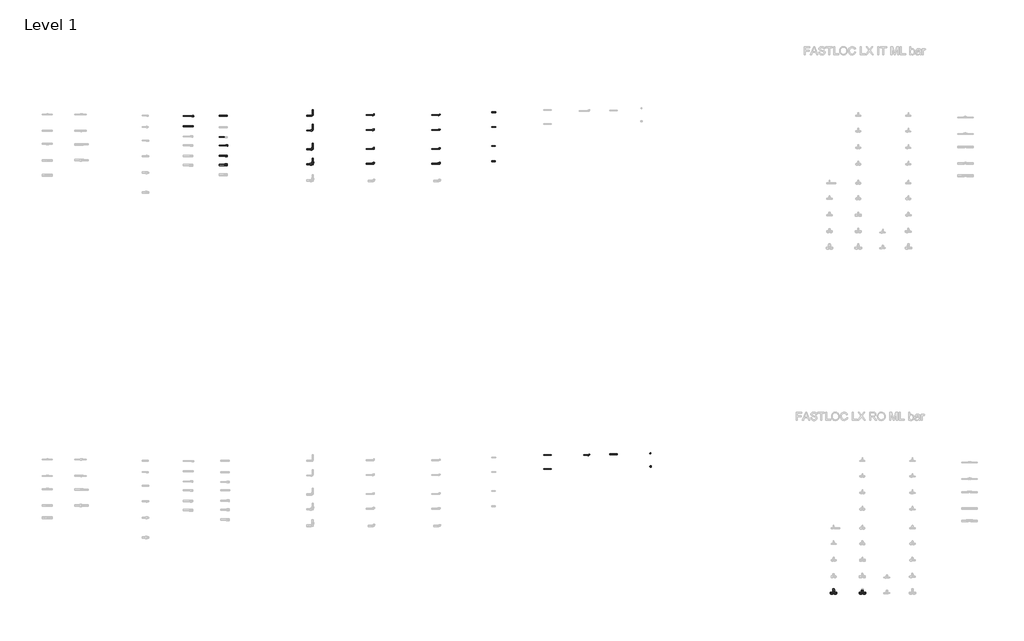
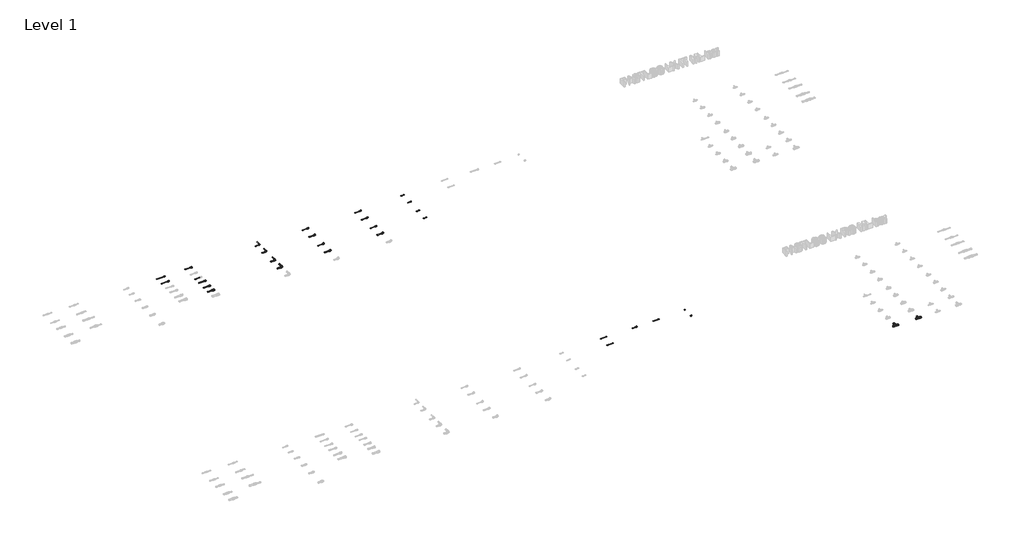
# One storey, part 15 of 78: 37 pipe segments, 23 pipe fittings.
"""IFC4 building model written with IfcOpenShell, lengths in millimetres."""

from ifc_helpers import new_model, si_unit, point, frame, frame_2d, origin, place, context, project, spatial, circle_curve, trimmed, segment, composite_curve, outline, extrude, transform, mapped, element, save
from components import pipe_fitting_bf755f27, pipe_fitting_836a2278, pipe_fitting_ec6341fa, pipe_fitting_b55198ad, pipe_fitting_8d4eabeb, pipe_fitting_91101529, pipe_fitting_310333dd, pipe_fitting_c8bca06d, pipe_fitting_5bbd4ca1, pipe_fitting_ce7225c3, pipe_fitting_e4b23f8c, pipe_fitting_5776f994, pipe_fitting_edf19c19, pipe_fitting_b873231b, pipe_fitting_ea484583, pipe_fitting_564e9d2e, pipe_fitting_7e3be5b8, pipe_fitting_24e9e25e, pipe_fitting_f7ee4d9f

model = new_model("IFC4")

# Units and contexts
model_context = context("Model", 3, world=origin())
ifc_project = project(units=[si_unit("LENGTHUNIT", "METRE", prefix="MILLI")], contexts=[model_context])

# Site, building, storey
site = spatial("IfcSite", under=ifc_project)
building = spatial("IfcBuilding", under=site)
storey = spatial("IfcBuildingStorey", under=building, Name="Level 1", Elevation=0.0)

# Pipe fittings
placement = place(None, origin())
pipe_fitting_shape = pipe_fitting_bf755f27(model_context)
element("IfcPipeFitting", 1, ObjectType="FASTLOC_Adapter with union nut LX : FSL A union nut SK", at=placement, inside=storey, context=model_context, shape_type="MappedRepresentation", body=[
    mapped(pipe_fitting_shape, transform((9445.0071797, -19934.8414073, 0.0), x_axis=(1.0, 0.0, 0.0), y_axis=(0.0, 1.0, 0.0), z_axis=(0.0, 0.0, 1.0))),
])
pipe_fitting_2_shape = pipe_fitting_836a2278(model_context)
element("IfcPipeFitting", 2, ObjectType="FASTLOC_Adapter_LX, with internal thread : FSL A internal SK", at=placement, inside=storey, context=model_context, shape_type="MappedRepresentation", body=[
    mapped(pipe_fitting_2_shape, transform((8631.9138788, -18746.1148632, 0.0), x_axis=(1.0, 0.0, 0.0), y_axis=(0.0, 1.0, 0.0), z_axis=(0.0, 0.0, 1.0))),
])
pipe_fitting_3_shape = pipe_fitting_ec6341fa(model_context)
element("IfcPipeFitting", 3, ObjectType="FASTLOC_Blanking plug LX : FSL Bp LX FR", at=placement, inside=storey, context=model_context, shape_type="MappedRepresentation", body=[
    mapped(pipe_fitting_3_shape, transform((19755.4857845, -26956.0968766, 0.0), x_axis=(1.0, 0.0, 0.0), y_axis=(0.0, 1.0, 0.0), z_axis=(0.0, 0.0, 1.0))),
])
pipe_fitting_4_shape = pipe_fitting_b55198ad(model_context)
element("IfcPipeFitting", 4, ObjectType="FASTLOC_Corner LX : FSL C LX SK", at=placement, inside=storey, context=model_context, shape_type="MappedRepresentation", body=[
    mapped(pipe_fitting_4_shape, transform((11545.4707441, -18738.8136389, 0.0), x_axis=(1.0, 0.0, 0.0), y_axis=(0.0, 1.0, 0.0), z_axis=(0.0, 0.0, 1.0))),
])
pipe_fitting_5_shape = pipe_fitting_8d4eabeb(model_context)
element("IfcPipeFitting", 5, ObjectType="FASTLOC_Elbow with female thread LX : FSL A internal SK", at=placement, inside=storey, context=model_context, shape_type="MappedRepresentation", body=[
    mapped(pipe_fitting_5_shape, transform((14636.9744513, -18724.4914884, 0.0), x_axis=(1.0, 0.0, 0.0), y_axis=(0.0, 1.0, 0.0), z_axis=(0.0, 0.0, 1.0))),
])
element("IfcPipeFitting", 6, ObjectType="FASTLOC_Elbow with female thread LX : FSL A internal SK", at=placement, inside=storey, context=model_context, shape_type="MappedRepresentation", body=[
    mapped(pipe_fitting_5_shape, transform((14636.9744513, -19084.4914884, 0.0), x_axis=(1.0, 0.0, 0.0), y_axis=(0.0, 1.0, 0.0), z_axis=(0.0, 0.0, 1.0))),
])
element("IfcPipeFitting", 7, ObjectType="FASTLOC_Elbow with female thread LX : FSL A internal SK", at=placement, inside=storey, context=model_context, shape_type="MappedRepresentation", body=[
    mapped(pipe_fitting_5_shape, transform((14636.9744513, -19544.4914884, 0.0), x_axis=(1.0, 0.0, 0.0), y_axis=(0.0, 1.0, 0.0), z_axis=(0.0, 0.0, 1.0))),
])
pipe_fitting_6_shape = pipe_fitting_91101529(model_context)
element("IfcPipeFitting", 8, ObjectType="FASTLOC_Elbow with male thread G LX : FSL A internal FR", at=placement, inside=storey, context=model_context, shape_type="MappedRepresentation", body=[
    mapped(pipe_fitting_6_shape, transform((18277.9521728, -26999.4468766, 0.0), x_axis=(1.0, 0.0, 0.0), y_axis=(0.0, 1.0, 0.0), z_axis=(0.0, 0.0, 1.0))),
])
pipe_fitting_7_shape = pipe_fitting_310333dd(model_context)
element("IfcPipeFitting", 9, ObjectType="FASTLOC_Elbow with male thread LX : FSL A internal SK", at=placement, inside=storey, context=model_context, shape_type="MappedRepresentation", body=[
    mapped(pipe_fitting_7_shape, transform((13036.9744513, -18724.4914884, 0.0), x_axis=(1.0, 0.0, 0.0), y_axis=(0.0, 1.0, 0.0), z_axis=(0.0, 0.0, 1.0))),
])
element("IfcPipeFitting", 10, ObjectType="FASTLOC_Elbow with male thread LX : FSL A internal SK", at=placement, inside=storey, context=model_context, shape_type="MappedRepresentation", body=[
    mapped(pipe_fitting_7_shape, transform((13036.9744513, -19084.4914884, 0.0), x_axis=(1.0, 0.0, 0.0), y_axis=(0.0, 1.0, 0.0), z_axis=(0.0, 0.0, 1.0))),
])
element("IfcPipeFitting", 11, ObjectType="FASTLOC_Elbow with male thread LX : FSL A internal SK", at=placement, inside=storey, context=model_context, shape_type="MappedRepresentation", body=[
    mapped(pipe_fitting_7_shape, transform((13036.9744513, -19544.4914884, 0.0), x_axis=(1.0, 0.0, 0.0), y_axis=(0.0, 1.0, 0.0), z_axis=(0.0, 0.0, 1.0))),
])
pipe_fitting_8_shape = pipe_fitting_c8bca06d(model_context)
element("IfcPipeFitting", 12, ObjectType="FASTLOC_Adapter with union nut LX : FSL A union nut SK", at=placement, inside=storey, context=model_context, shape_type="MappedRepresentation", body=[
    mapped(pipe_fitting_8_shape, transform((9459.1493153, -19460.6992717, 0.0), x_axis=(1.0, 0.0, 0.0), y_axis=(0.0, 1.0, 0.0), z_axis=(0.0, 0.0, 1.0))),
])
pipe_fitting_9_shape = pipe_fitting_5bbd4ca1(model_context)
element("IfcPipeFitting", 13, ObjectType="FASTLOC_Adapter with union nut LX : FSL A union nut SK", at=placement, inside=storey, context=model_context, shape_type="MappedRepresentation", body=[
    mapped(pipe_fitting_9_shape, transform((9445.0071797, -19714.8414073, 0.0), x_axis=(1.0, 0.0, 0.0), y_axis=(0.0, 1.0, 0.0), z_axis=(0.0, 0.0, 1.0))),
])
pipe_fitting_10_shape = pipe_fitting_ce7225c3(model_context)
element("IfcPipeFitting", 14, ObjectType="FASTLOC_Adapter with union nut LX : FSL A union nut SK", at=placement, inside=storey, context=model_context, shape_type="MappedRepresentation", body=[
    mapped(pipe_fitting_10_shape, transform((9445.0071797, -18739.8414073, 0.0), x_axis=(1.0, 0.0, 0.0), y_axis=(0.0, 1.0, 0.0), z_axis=(0.0, 0.0, 1.0))),
])
pipe_fitting_11_shape = pipe_fitting_e4b23f8c(model_context)
element("IfcPipeFitting", 15, ObjectType="FASTLOC_Corner LX : FSL C LX SK", at=placement, inside=storey, context=model_context, shape_type="MappedRepresentation", body=[
    mapped(pipe_fitting_11_shape, transform((11545.4707441, -19098.8136389, 0.0), x_axis=(1.0, 0.0, 0.0), y_axis=(0.0, 1.0, 0.0), z_axis=(0.0, 0.0, 1.0))),
])
pipe_fitting_12_shape = pipe_fitting_5776f994(model_context)
element("IfcPipeFitting", 16, ObjectType="FASTLOC_Corner LX : FSL C LX SK", at=placement, inside=storey, context=model_context, shape_type="MappedRepresentation", body=[
    mapped(pipe_fitting_12_shape, transform((11545.4707441, -19558.8136389, 0.0), x_axis=(1.0, 0.0, 0.0), y_axis=(0.0, 1.0, 0.0), z_axis=(0.0, 0.0, 1.0))),
])
pipe_fitting_13_shape = pipe_fitting_edf19c19(model_context)
element("IfcPipeFitting", 17, ObjectType="FASTLOC_Corner LX : FSL C LX SK", at=placement, inside=storey, context=model_context, shape_type="MappedRepresentation", body=[
    mapped(pipe_fitting_13_shape, transform((11545.4707441, -19918.8136389, 0.0), x_axis=(1.0, 0.0, 0.0), y_axis=(0.0, 1.0, 0.0), z_axis=(0.0, 0.0, 1.0))),
])
pipe_fitting_14_shape = pipe_fitting_b873231b(model_context)
element("IfcPipeFitting", 18, ObjectType="FASTLOC_Elbow with male thread LX : FSL A internal SK", at=placement, inside=storey, context=model_context, shape_type="MappedRepresentation", body=[
    mapped(pipe_fitting_14_shape, transform((13036.9744513, -19904.4914884, 0.0), x_axis=(1.0, 0.0, 0.0), y_axis=(0.0, 1.0, 0.0), z_axis=(0.0, 0.0, 1.0))),
])
pipe_fitting_15_shape = pipe_fitting_ea484583(model_context)
element("IfcPipeFitting", 19, ObjectType="FASTLOC_Elbow with female thread LX : FSL A internal SK", at=placement, inside=storey, context=model_context, shape_type="MappedRepresentation", body=[
    mapped(pipe_fitting_15_shape, transform((14636.9744513, -19904.4914884, 0.0), x_axis=(1.0, 0.0, 0.0), y_axis=(0.0, 1.0, 0.0), z_axis=(0.0, 0.0, 1.0))),
])
pipe_fitting_16_shape = pipe_fitting_564e9d2e(model_context)
element("IfcPipeFitting", 20, ObjectType="FASTLOC_T-piece_LX : FSL T-Piece LX RO", at=placement, inside=storey, context=model_context, shape_type="MappedRepresentation", body=[
    mapped(pipe_fitting_16_shape, transform((24226.7498072, -30360.2405791, 0.0), x_axis=(1.0, 0.0, 0.0), y_axis=(0.0, 1.0, 0.0), z_axis=(0.0, 0.0, 1.0))),
])
pipe_fitting_17_shape = pipe_fitting_7e3be5b8(model_context)
element("IfcPipeFitting", 21, ObjectType="FASTLOC_T-piece_LX : FSL T-Piece LX RO", at=placement, inside=storey, context=model_context, shape_type="MappedRepresentation", body=[
    mapped(pipe_fitting_17_shape, transform((24926.7498072, -30360.2405791, 0.0), x_axis=(1.0, 0.0, 0.0), y_axis=(0.0, 1.0, 0.0), z_axis=(0.0, 0.0, 1.0))),
])
pipe_fitting_18_shape = pipe_fitting_24e9e25e(model_context)
element("IfcPipeFitting", 22, ObjectType="FASTLOC_Blanking plug LX : FSL Bp LX FR", at=placement, inside=storey, context=model_context, shape_type="MappedRepresentation", body=[
    mapped(pipe_fitting_18_shape, transform((19755.4857845, -27276.0968766, 0.0), x_axis=(1.0, 0.0, 0.0), y_axis=(0.0, 1.0, 0.0), z_axis=(0.0, 0.0, 1.0))),
])
pipe_fitting_19_shape = pipe_fitting_f7ee4d9f(model_context)
element("IfcPipeFitting", 23, ObjectType="FASTLOC_Adapter_LX, with internal thread : FSL A internal SK", at=placement, inside=storey, context=model_context, shape_type="MappedRepresentation", body=[
    mapped(pipe_fitting_19_shape, transform((8619.5138788, -18992.5715861, 0.0), x_axis=(1.0, 0.0, 0.0), y_axis=(0.0, 1.0, 0.0), z_axis=(0.0, 0.0, 1.0))),
])

# Pipe segments
element("IfcPipeSegment", 24, ObjectType="FASTLOC LX ML SK bar", at=placement, inside=storey, context=model_context, shape_type="SweptSolid", body=[
    extrude(outline(composite_curve([segment(trimmed(circle_curve(frame_2d((-18746.1148632, 0.0)), 8.0), [point((-18738.1148632, 0.0))], [point((-18746.1148632, -8.0))], False, "CARTESIAN"), True, "CONTINUOUS"), segment(trimmed(circle_curve(frame_2d((-18746.1148632, 0.0)), 8.0), [point((-18746.1148632, -8.0))], [point((-18754.1148632, 0.0))], False, "CARTESIAN"), True, "CONTINUOUS"), segment(trimmed(circle_curve(frame_2d((-18746.1148632, 0.0)), 8.0), [point((-18754.1148632, 0.0))], [point((-18746.1148632, 8.0))], False, "CARTESIAN"), True, "CONTINUOUS"), segment(trimmed(circle_curve(frame_2d((-18746.1148632, 0.0)), 8.0), [point((-18746.1148632, 8.0))], [point((-18738.1148632, 0.0))], False, "CARTESIAN"), True, "CONTINUOUS")], self_intersect=False)), frame((8390.3717432, 0.0, 0.0), z_axis=(1.0, 0.0, 0.0), x_axis=(0.0, 1.0, 0.0)), (0.0, 0.0, 1.0), 229.1421356),
])
element("IfcPipeSegment", 25, ObjectType="FASTLOC LX ML SK bar", at=placement, inside=storey, context=model_context, shape_type="SweptSolid", body=[
    extrude(outline(composite_curve([segment(trimmed(circle_curve(frame_2d((-18738.8136389, 0.0)), 8.0), [point((-18730.8136389, 0.0))], [point((-18738.8136389, -8.0))], False, "CARTESIAN"), True, "CONTINUOUS"), segment(trimmed(circle_curve(frame_2d((-18738.8136389, 0.0)), 8.0), [point((-18738.8136389, -8.0))], [point((-18746.8136389, 0.0))], False, "CARTESIAN"), True, "CONTINUOUS"), segment(trimmed(circle_curve(frame_2d((-18738.8136389, 0.0)), 8.0), [point((-18746.8136389, 0.0))], [point((-18738.8136389, 8.0))], False, "CARTESIAN"), True, "CONTINUOUS"), segment(trimmed(circle_curve(frame_2d((-18738.8136389, 0.0)), 8.0), [point((-18738.8136389, 8.0))], [point((-18730.8136389, 0.0))], False, "CARTESIAN"), True, "CONTINUOUS")], self_intersect=False)), frame((11403.3707441, 0.0, 0.0), z_axis=(1.0, 0.0, 0.0), x_axis=(0.0, 1.0, 0.0)), (0.0, 0.0, 1.0), 120.0),
])
element("IfcPipeSegment", 26, ObjectType="FASTLOC LX ML SK bar", at=placement, inside=storey, context=model_context, shape_type="SweptSolid", body=[
    extrude(outline(composite_curve([segment(trimmed(circle_curve(frame_2d((0.0, 11545.4707441)), 8.0), [point((0.0, 11553.4707441))], [point((8.0, 11545.4707441))], False, "CARTESIAN"), True, "CONTINUOUS"), segment(trimmed(circle_curve(frame_2d((0.0, 11545.4707441)), 8.0), [point((8.0, 11545.4707441))], [point((0.0, 11537.4707441))], False, "CARTESIAN"), True, "CONTINUOUS"), segment(trimmed(circle_curve(frame_2d((0.0, 11545.4707441)), 8.0), [point((0.0, 11537.4707441))], [point((-8.0, 11545.4707441))], False, "CARTESIAN"), True, "CONTINUOUS"), segment(trimmed(circle_curve(frame_2d((0.0, 11545.4707441)), 8.0), [point((-8.0, 11545.4707441))], [point((0.0, 11553.4707441))], False, "CARTESIAN"), True, "CONTINUOUS")], self_intersect=False)), frame((0.0, -18716.7136389, 0.0), z_axis=(0.0, 1.0, 0.0), x_axis=(0.0, 0.0, 1.0)), (0.0, 0.0, 1.0), 125.0),
])
element("IfcPipeSegment", 27, ObjectType="FASTLOC LX ML SK bar", at=placement, inside=storey, context=model_context, shape_type="SweptSolid", body=[
    extrude(outline(composite_curve([segment(trimmed(circle_curve(frame_2d((-19098.8136389, 0.0)), 8.0), [point((-19090.8136389, 0.0))], [point((-19098.8136389, -8.0))], False, "CARTESIAN"), True, "CONTINUOUS"), segment(trimmed(circle_curve(frame_2d((-19098.8136389, 0.0)), 8.0), [point((-19098.8136389, -8.0))], [point((-19106.8136389, 0.0))], False, "CARTESIAN"), True, "CONTINUOUS"), segment(trimmed(circle_curve(frame_2d((-19098.8136389, 0.0)), 8.0), [point((-19106.8136389, 0.0))], [point((-19098.8136389, 8.0))], False, "CARTESIAN"), True, "CONTINUOUS"), segment(trimmed(circle_curve(frame_2d((-19098.8136389, 0.0)), 8.0), [point((-19098.8136389, 8.0))], [point((-19090.8136389, 0.0))], False, "CARTESIAN"), True, "CONTINUOUS")], self_intersect=False)), frame((11403.3707441, 0.0, 0.0), z_axis=(1.0, 0.0, 0.0), x_axis=(0.0, 1.0, 0.0)), (0.0, 0.0, 1.0), 117.5),
])
element("IfcPipeSegment", 28, ObjectType="FASTLOC LX ML SK bar", at=placement, inside=storey, context=model_context, shape_type="SweptSolid", body=[
    extrude(outline(composite_curve([segment(trimmed(circle_curve(frame_2d((0.0, 11545.4707441)), 8.0), [point((0.0, 11553.4707441))], [point((8.0, 11545.4707441))], False, "CARTESIAN"), True, "CONTINUOUS"), segment(trimmed(circle_curve(frame_2d((0.0, 11545.4707441)), 8.0), [point((8.0, 11545.4707441))], [point((0.0, 11537.4707441))], False, "CARTESIAN"), True, "CONTINUOUS"), segment(trimmed(circle_curve(frame_2d((0.0, 11545.4707441)), 8.0), [point((0.0, 11537.4707441))], [point((-8.0, 11545.4707441))], False, "CARTESIAN"), True, "CONTINUOUS"), segment(trimmed(circle_curve(frame_2d((0.0, 11545.4707441)), 8.0), [point((-8.0, 11545.4707441))], [point((0.0, 11553.4707441))], False, "CARTESIAN"), True, "CONTINUOUS")], self_intersect=False)), frame((0.0, -19074.2136389, 0.0), z_axis=(0.0, 1.0, 0.0), x_axis=(0.0, 0.0, 1.0)), (0.0, 0.0, 1.0), 122.5),
])
element("IfcPipeSegment", 29, ObjectType="FASTLOC LX ML SK bar", at=placement, inside=storey, context=model_context, shape_type="SweptSolid", body=[
    extrude(outline(composite_curve([segment(trimmed(circle_curve(frame_2d((-19558.8136389, 0.0)), 12.5), [point((-19546.3136389, 0.0))], [point((-19558.8136389, -12.5))], False, "CARTESIAN"), True, "CONTINUOUS"), segment(trimmed(circle_curve(frame_2d((-19558.8136389, 0.0)), 12.5), [point((-19558.8136389, -12.5))], [point((-19571.3136389, 0.0))], False, "CARTESIAN"), True, "CONTINUOUS"), segment(trimmed(circle_curve(frame_2d((-19558.8136389, 0.0)), 12.5), [point((-19571.3136389, 0.0))], [point((-19558.8136389, 12.5))], False, "CARTESIAN"), True, "CONTINUOUS"), segment(trimmed(circle_curve(frame_2d((-19558.8136389, 0.0)), 12.5), [point((-19558.8136389, 12.5))], [point((-19546.3136389, 0.0))], False, "CARTESIAN"), True, "CONTINUOUS")], self_intersect=False)), frame((11403.3707441, 0.0, 0.0), z_axis=(1.0, 0.0, 0.0), x_axis=(0.0, 1.0, 0.0)), (0.0, 0.0, 1.0), 113.1),
])
element("IfcPipeSegment", 30, ObjectType="FASTLOC LX ML SK bar", at=placement, inside=storey, context=model_context, shape_type="SweptSolid", body=[
    extrude(outline(composite_curve([segment(trimmed(circle_curve(frame_2d((0.0, 11545.4707441)), 12.5), [point((0.0, 11557.9707441))], [point((12.5, 11545.4707441))], False, "CARTESIAN"), True, "CONTINUOUS"), segment(trimmed(circle_curve(frame_2d((0.0, 11545.4707441)), 12.5), [point((12.5, 11545.4707441))], [point((0.0, 11532.9707441))], False, "CARTESIAN"), True, "CONTINUOUS"), segment(trimmed(circle_curve(frame_2d((0.0, 11545.4707441)), 12.5), [point((0.0, 11532.9707441))], [point((-12.5, 11545.4707441))], False, "CARTESIAN"), True, "CONTINUOUS"), segment(trimmed(circle_curve(frame_2d((0.0, 11545.4707441)), 12.5), [point((-12.5, 11545.4707441))], [point((0.0, 11557.9707441))], False, "CARTESIAN"), True, "CONTINUOUS")], self_intersect=False)), frame((0.0, -19529.8136389, 0.0), z_axis=(0.0, 1.0, 0.0), x_axis=(0.0, 0.0, 1.0)), (0.0, 0.0, 1.0), 118.1),
])
element("IfcPipeSegment", 31, ObjectType="FASTLOC LX ML SK bar", at=placement, inside=storey, context=model_context, shape_type="SweptSolid", body=[
    extrude(outline(composite_curve([segment(trimmed(circle_curve(frame_2d((-19918.8136389, 0.0)), 16.0), [point((-19902.8136389, 0.0))], [point((-19918.8136389, -16.0))], False, "CARTESIAN"), True, "CONTINUOUS"), segment(trimmed(circle_curve(frame_2d((-19918.8136389, 0.0)), 16.0), [point((-19918.8136389, -16.0))], [point((-19934.8136389, 0.0))], False, "CARTESIAN"), True, "CONTINUOUS"), segment(trimmed(circle_curve(frame_2d((-19918.8136389, 0.0)), 16.0), [point((-19934.8136389, 0.0))], [point((-19918.8136389, 16.0))], False, "CARTESIAN"), True, "CONTINUOUS"), segment(trimmed(circle_curve(frame_2d((-19918.8136389, 0.0)), 16.0), [point((-19918.8136389, 16.0))], [point((-19902.8136389, 0.0))], False, "CARTESIAN"), True, "CONTINUOUS")], self_intersect=False)), frame((11403.3707441, 0.0, 0.0), z_axis=(1.0, 0.0, 0.0), x_axis=(0.0, 1.0, 0.0)), (0.0, 0.0, 1.0), 107.1),
])
element("IfcPipeSegment", 32, ObjectType="FASTLOC LX ML SK bar", at=placement, inside=storey, context=model_context, shape_type="SweptSolid", body=[
    extrude(outline(composite_curve([segment(trimmed(circle_curve(frame_2d((0.0, 11545.4707441)), 16.0), [point((0.0, 11561.4707441))], [point((16.0, 11545.4707441))], False, "CARTESIAN"), True, "CONTINUOUS"), segment(trimmed(circle_curve(frame_2d((0.0, 11545.4707441)), 16.0), [point((16.0, 11545.4707441))], [point((0.0, 11529.4707441))], False, "CARTESIAN"), True, "CONTINUOUS"), segment(trimmed(circle_curve(frame_2d((0.0, 11545.4707441)), 16.0), [point((0.0, 11529.4707441))], [point((-16.0, 11545.4707441))], False, "CARTESIAN"), True, "CONTINUOUS"), segment(trimmed(circle_curve(frame_2d((0.0, 11545.4707441)), 16.0), [point((-16.0, 11545.4707441))], [point((0.0, 11561.4707441))], False, "CARTESIAN"), True, "CONTINUOUS")], self_intersect=False)), frame((0.0, -19883.8136389, 0.0), z_axis=(0.0, 1.0, 0.0), x_axis=(0.0, 0.0, 1.0)), (0.0, 0.0, 1.0), 112.1),
])
element("IfcPipeSegment", 33, ObjectType="FASTLOC LX ML SK bar", at=placement, inside=storey, context=model_context, shape_type="SweptSolid", body=[
    extrude(outline(composite_curve([segment(trimmed(circle_curve(frame_2d((-18724.4914884, 0.0)), 8.0), [point((-18716.4914884, 0.0))], [point((-18724.4914884, -8.0))], False, "CARTESIAN"), True, "CONTINUOUS"), segment(trimmed(circle_curve(frame_2d((-18724.4914884, 0.0)), 8.0), [point((-18724.4914884, -8.0))], [point((-18732.4914884, 0.0))], False, "CARTESIAN"), True, "CONTINUOUS"), segment(trimmed(circle_curve(frame_2d((-18724.4914884, 0.0)), 8.0), [point((-18732.4914884, 0.0))], [point((-18724.4914884, 8.0))], False, "CARTESIAN"), True, "CONTINUOUS"), segment(trimmed(circle_curve(frame_2d((-18724.4914884, 0.0)), 8.0), [point((-18724.4914884, 8.0))], [point((-18716.4914884, 0.0))], False, "CARTESIAN"), True, "CONTINUOUS")], self_intersect=False)), frame((12846.7744513, 0.0, 0.0), z_axis=(1.0, 0.0, 0.0), x_axis=(0.0, 1.0, 0.0)), (0.0, 0.0, 1.0), 170.0),
])
element("IfcPipeSegment", 34, ObjectType="FASTLOC LX ML SK bar", at=placement, inside=storey, context=model_context, shape_type="SweptSolid", body=[
    extrude(outline(composite_curve([segment(trimmed(circle_curve(frame_2d((-19084.4914884, 0.0)), 8.0), [point((-19076.4914884, 0.0))], [point((-19084.4914884, -8.0))], False, "CARTESIAN"), True, "CONTINUOUS"), segment(trimmed(circle_curve(frame_2d((-19084.4914884, 0.0)), 8.0), [point((-19084.4914884, -8.0))], [point((-19092.4914884, 0.0))], False, "CARTESIAN"), True, "CONTINUOUS"), segment(trimmed(circle_curve(frame_2d((-19084.4914884, 0.0)), 8.0), [point((-19092.4914884, 0.0))], [point((-19084.4914884, 8.0))], False, "CARTESIAN"), True, "CONTINUOUS"), segment(trimmed(circle_curve(frame_2d((-19084.4914884, 0.0)), 8.0), [point((-19084.4914884, 8.0))], [point((-19076.4914884, 0.0))], False, "CARTESIAN"), True, "CONTINUOUS")], self_intersect=False)), frame((12846.7744513, 0.0, 0.0), z_axis=(1.0, 0.0, 0.0), x_axis=(0.0, 1.0, 0.0)), (0.0, 0.0, 1.0), 170.0),
])
element("IfcPipeSegment", 35, ObjectType="FASTLOC LX ML SK bar", at=placement, inside=storey, context=model_context, shape_type="SweptSolid", body=[
    extrude(outline(composite_curve([segment(trimmed(circle_curve(frame_2d((-19544.4914884, 0.0)), 8.0), [point((-19536.4914884, 0.0))], [point((-19544.4914884, -8.0))], False, "CARTESIAN"), True, "CONTINUOUS"), segment(trimmed(circle_curve(frame_2d((-19544.4914884, 0.0)), 8.0), [point((-19544.4914884, -8.0))], [point((-19552.4914884, 0.0))], False, "CARTESIAN"), True, "CONTINUOUS"), segment(trimmed(circle_curve(frame_2d((-19544.4914884, 0.0)), 8.0), [point((-19552.4914884, 0.0))], [point((-19544.4914884, 8.0))], False, "CARTESIAN"), True, "CONTINUOUS"), segment(trimmed(circle_curve(frame_2d((-19544.4914884, 0.0)), 8.0), [point((-19544.4914884, 8.0))], [point((-19536.4914884, 0.0))], False, "CARTESIAN"), True, "CONTINUOUS")], self_intersect=False)), frame((12846.7744513, 0.0, 0.0), z_axis=(1.0, 0.0, 0.0), x_axis=(0.0, 1.0, 0.0)), (0.0, 0.0, 1.0), 170.0),
])
element("IfcPipeSegment", 36, ObjectType="FASTLOC LX ML SK bar", at=placement, inside=storey, context=model_context, shape_type="SweptSolid", body=[
    extrude(outline(composite_curve([segment(trimmed(circle_curve(frame_2d((-18654.4604595, 0.0)), 8.0), [point((-18646.4604595, 0.0))], [point((-18654.4604595, -8.0))], False, "CARTESIAN"), True, "CONTINUOUS"), segment(trimmed(circle_curve(frame_2d((-18654.4604595, 0.0)), 8.0), [point((-18654.4604595, -8.0))], [point((-18662.4604595, 0.0))], False, "CARTESIAN"), True, "CONTINUOUS"), segment(trimmed(circle_curve(frame_2d((-18654.4604595, 0.0)), 8.0), [point((-18662.4604595, 0.0))], [point((-18654.4604595, 8.0))], False, "CARTESIAN"), True, "CONTINUOUS"), segment(trimmed(circle_curve(frame_2d((-18654.4604595, 0.0)), 8.0), [point((-18654.4604595, 8.0))], [point((-18646.4604595, 0.0))], False, "CARTESIAN"), True, "CONTINUOUS")], self_intersect=False)), frame((15898.9809397, 0.0, 0.0), z_axis=(1.0, 0.0, 0.0), x_axis=(0.0, 1.0, 0.0)), (0.0, 0.0, 1.0), 99.5),
])
element("IfcPipeSegment", 37, ObjectType="FASTLOC LX ML SK bar", at=placement, inside=storey, context=model_context, shape_type="SweptSolid", body=[
    extrude(outline(composite_curve([segment(trimmed(circle_curve(frame_2d((-19014.4604595, 0.0)), 8.0), [point((-19006.4604595, 0.0))], [point((-19014.4604595, -8.0))], False, "CARTESIAN"), True, "CONTINUOUS"), segment(trimmed(circle_curve(frame_2d((-19014.4604595, 0.0)), 8.0), [point((-19014.4604595, -8.0))], [point((-19022.4604595, 0.0))], False, "CARTESIAN"), True, "CONTINUOUS"), segment(trimmed(circle_curve(frame_2d((-19014.4604595, 0.0)), 8.0), [point((-19022.4604595, 0.0))], [point((-19014.4604595, 8.0))], False, "CARTESIAN"), True, "CONTINUOUS"), segment(trimmed(circle_curve(frame_2d((-19014.4604595, 0.0)), 8.0), [point((-19014.4604595, 8.0))], [point((-19006.4604595, 0.0))], False, "CARTESIAN"), True, "CONTINUOUS")], self_intersect=False)), frame((15898.9809397, 0.0, 0.0), z_axis=(1.0, 0.0, 0.0), x_axis=(0.0, 1.0, 0.0)), (0.0, 0.0, 1.0), 99.6),
])
element("IfcPipeSegment", 38, ObjectType="FASTLOC LX ML SK bar", at=placement, inside=storey, context=model_context, shape_type="SweptSolid", body=[
    extrude(outline(composite_curve([segment(trimmed(circle_curve(frame_2d((-18992.5715861, 0.0)), 8.0), [point((-18984.5715861, 0.0))], [point((-18992.5715861, -8.0))], False, "CARTESIAN"), True, "CONTINUOUS"), segment(trimmed(circle_curve(frame_2d((-18992.5715861, 0.0)), 8.0), [point((-18992.5715861, -8.0))], [point((-19000.5715861, 0.0))], False, "CARTESIAN"), True, "CONTINUOUS"), segment(trimmed(circle_curve(frame_2d((-18992.5715861, 0.0)), 8.0), [point((-19000.5715861, 0.0))], [point((-18992.5715861, 8.0))], False, "CARTESIAN"), True, "CONTINUOUS"), segment(trimmed(circle_curve(frame_2d((-18992.5715861, 0.0)), 8.0), [point((-18992.5715861, 8.0))], [point((-18984.5715861, 0.0))], False, "CARTESIAN"), True, "CONTINUOUS")], self_intersect=False)), frame((8390.3717432, 0.0, 0.0), z_axis=(1.0, 0.0, 0.0), x_axis=(0.0, 1.0, 0.0)), (0.0, 0.0, 1.0), 217.4421356),
])
element("IfcPipeSegment", 39, ObjectType="FASTLOC LX ML SK bar", at=placement, inside=storey, context=model_context, shape_type="SweptSolid", body=[
    extrude(outline(composite_curve([segment(trimmed(circle_curve(frame_2d((-19904.4914884, 0.0)), 12.5), [point((-19891.9914884, 0.0))], [point((-19904.4914884, -12.5))], False, "CARTESIAN"), True, "CONTINUOUS"), segment(trimmed(circle_curve(frame_2d((-19904.4914884, 0.0)), 12.5), [point((-19904.4914884, -12.5))], [point((-19916.9914884, 0.0))], False, "CARTESIAN"), True, "CONTINUOUS"), segment(trimmed(circle_curve(frame_2d((-19904.4914884, 0.0)), 12.5), [point((-19916.9914884, 0.0))], [point((-19904.4914884, 12.5))], False, "CARTESIAN"), True, "CONTINUOUS"), segment(trimmed(circle_curve(frame_2d((-19904.4914884, 0.0)), 12.5), [point((-19904.4914884, 12.5))], [point((-19891.9914884, 0.0))], False, "CARTESIAN"), True, "CONTINUOUS")], self_intersect=False)), frame((12846.7744513, 0.0, 0.0), z_axis=(1.0, 0.0, 0.0), x_axis=(0.0, 1.0, 0.0)), (0.0, 0.0, 1.0), 166.0),
])
element("IfcPipeSegment", 40, ObjectType="FASTLOC LX ML SK bar", at=placement, inside=storey, context=model_context, shape_type="SweptSolid", body=[
    extrude(outline(composite_curve([segment(trimmed(circle_curve(frame_2d((-19474.4604595, 0.0)), 8.0), [point((-19466.4604595, 0.0))], [point((-19474.4604595, -8.0))], False, "CARTESIAN"), True, "CONTINUOUS"), segment(trimmed(circle_curve(frame_2d((-19474.4604595, 0.0)), 8.0), [point((-19474.4604595, -8.0))], [point((-19482.4604595, 0.0))], False, "CARTESIAN"), True, "CONTINUOUS"), segment(trimmed(circle_curve(frame_2d((-19474.4604595, 0.0)), 8.0), [point((-19482.4604595, 0.0))], [point((-19474.4604595, 8.0))], False, "CARTESIAN"), True, "CONTINUOUS"), segment(trimmed(circle_curve(frame_2d((-19474.4604595, 0.0)), 8.0), [point((-19474.4604595, 8.0))], [point((-19466.4604595, 0.0))], False, "CARTESIAN"), True, "CONTINUOUS")], self_intersect=False)), frame((15898.9809397, 0.0, 0.0), z_axis=(1.0, 0.0, 0.0), x_axis=(0.0, 1.0, 0.0)), (0.0, 0.0, 1.0), 89.6),
])
element("IfcPipeSegment", 41, ObjectType="FASTLOC LX ML SK bar", at=placement, inside=storey, context=model_context, shape_type="SweptSolid", body=[
    extrude(outline(composite_curve([segment(trimmed(circle_curve(frame_2d((-19850.4604595, 0.0)), 12.5), [point((-19837.9604595, 0.0))], [point((-19850.4604595, -12.5))], False, "CARTESIAN"), True, "CONTINUOUS"), segment(trimmed(circle_curve(frame_2d((-19850.4604595, 0.0)), 12.5), [point((-19850.4604595, -12.5))], [point((-19862.9604595, 0.0))], False, "CARTESIAN"), True, "CONTINUOUS"), segment(trimmed(circle_curve(frame_2d((-19850.4604595, 0.0)), 12.5), [point((-19862.9604595, 0.0))], [point((-19850.4604595, 12.5))], False, "CARTESIAN"), True, "CONTINUOUS"), segment(trimmed(circle_curve(frame_2d((-19850.4604595, 0.0)), 12.5), [point((-19850.4604595, 12.5))], [point((-19837.9604595, 0.0))], False, "CARTESIAN"), True, "CONTINUOUS")], self_intersect=False)), frame((15898.9809397, 0.0, 0.0), z_axis=(1.0, 0.0, 0.0), x_axis=(0.0, 1.0, 0.0)), (0.0, 0.0, 1.0), 95.4),
])
element("IfcPipeSegment", 42, ObjectType="FASTLOC LX ML SK bar", at=placement, inside=storey, context=model_context, shape_type="SweptSolid", body=[
    extrude(outline(composite_curve([segment(trimmed(circle_curve(frame_2d((-18724.4914884, 0.0)), 8.0), [point((-18716.4914884, 0.0))], [point((-18724.4914884, -8.0))], False, "CARTESIAN"), True, "CONTINUOUS"), segment(trimmed(circle_curve(frame_2d((-18724.4914884, 0.0)), 8.0), [point((-18724.4914884, -8.0))], [point((-18732.4914884, 0.0))], False, "CARTESIAN"), True, "CONTINUOUS"), segment(trimmed(circle_curve(frame_2d((-18724.4914884, 0.0)), 8.0), [point((-18732.4914884, 0.0))], [point((-18724.4914884, 8.0))], False, "CARTESIAN"), True, "CONTINUOUS"), segment(trimmed(circle_curve(frame_2d((-18724.4914884, 0.0)), 8.0), [point((-18724.4914884, 8.0))], [point((-18716.4914884, 0.0))], False, "CARTESIAN"), True, "CONTINUOUS")], self_intersect=False)), frame((14446.7744513, 0.0, 0.0), z_axis=(1.0, 0.0, 0.0), x_axis=(0.0, 1.0, 0.0)), (0.0, 0.0, 1.0), 170.0),
])
element("IfcPipeSegment", 43, ObjectType="FASTLOC LX ML SK bar", at=placement, inside=storey, context=model_context, shape_type="SweptSolid", body=[
    extrude(outline(composite_curve([segment(trimmed(circle_curve(frame_2d((-19084.4914884, 0.0)), 8.0), [point((-19076.4914884, 0.0))], [point((-19084.4914884, -8.0))], False, "CARTESIAN"), True, "CONTINUOUS"), segment(trimmed(circle_curve(frame_2d((-19084.4914884, 0.0)), 8.0), [point((-19084.4914884, -8.0))], [point((-19092.4914884, 0.0))], False, "CARTESIAN"), True, "CONTINUOUS"), segment(trimmed(circle_curve(frame_2d((-19084.4914884, 0.0)), 8.0), [point((-19092.4914884, 0.0))], [point((-19084.4914884, 8.0))], False, "CARTESIAN"), True, "CONTINUOUS"), segment(trimmed(circle_curve(frame_2d((-19084.4914884, 0.0)), 8.0), [point((-19084.4914884, 8.0))], [point((-19076.4914884, 0.0))], False, "CARTESIAN"), True, "CONTINUOUS")], self_intersect=False)), frame((14446.7744513, 0.0, 0.0), z_axis=(1.0, 0.0, 0.0), x_axis=(0.0, 1.0, 0.0)), (0.0, 0.0, 1.0), 170.0),
])
element("IfcPipeSegment", 44, ObjectType="FASTLOC LX ML SK bar", at=placement, inside=storey, context=model_context, shape_type="SweptSolid", body=[
    extrude(outline(composite_curve([segment(trimmed(circle_curve(frame_2d((-19544.4914884, 0.0)), 8.0), [point((-19536.4914884, 0.0))], [point((-19544.4914884, -8.0))], False, "CARTESIAN"), True, "CONTINUOUS"), segment(trimmed(circle_curve(frame_2d((-19544.4914884, 0.0)), 8.0), [point((-19544.4914884, -8.0))], [point((-19552.4914884, 0.0))], False, "CARTESIAN"), True, "CONTINUOUS"), segment(trimmed(circle_curve(frame_2d((-19544.4914884, 0.0)), 8.0), [point((-19552.4914884, 0.0))], [point((-19544.4914884, 8.0))], False, "CARTESIAN"), True, "CONTINUOUS"), segment(trimmed(circle_curve(frame_2d((-19544.4914884, 0.0)), 8.0), [point((-19544.4914884, 8.0))], [point((-19536.4914884, 0.0))], False, "CARTESIAN"), True, "CONTINUOUS")], self_intersect=False)), frame((14446.7744513, 0.0, 0.0), z_axis=(1.0, 0.0, 0.0), x_axis=(0.0, 1.0, 0.0)), (0.0, 0.0, 1.0), 170.0),
])
element("IfcPipeSegment", 45, ObjectType="FASTLOC LX ML SK bar", at=placement, inside=storey, context=model_context, shape_type="SweptSolid", body=[
    extrude(outline(composite_curve([segment(trimmed(circle_curve(frame_2d((-19904.4914884, 0.0)), 12.5), [point((-19891.9914884, 0.0))], [point((-19904.4914884, -12.5))], False, "CARTESIAN"), True, "CONTINUOUS"), segment(trimmed(circle_curve(frame_2d((-19904.4914884, 0.0)), 12.5), [point((-19904.4914884, -12.5))], [point((-19916.9914884, 0.0))], False, "CARTESIAN"), True, "CONTINUOUS"), segment(trimmed(circle_curve(frame_2d((-19904.4914884, 0.0)), 12.5), [point((-19916.9914884, 0.0))], [point((-19904.4914884, 12.5))], False, "CARTESIAN"), True, "CONTINUOUS"), segment(trimmed(circle_curve(frame_2d((-19904.4914884, 0.0)), 12.5), [point((-19904.4914884, 12.5))], [point((-19891.9914884, 0.0))], False, "CARTESIAN"), True, "CONTINUOUS")], self_intersect=False)), frame((14446.7744513, 0.0, 0.0), z_axis=(1.0, 0.0, 0.0), x_axis=(0.0, 1.0, 0.0)), (0.0, 0.0, 1.0), 163.2),
])
element("IfcPipeSegment", 46, ObjectType="FASTLOC LX ML FR bar", at=placement, inside=storey, context=model_context, shape_type="SweptSolid", body=[
    extrude(outline(composite_curve([segment(trimmed(circle_curve(frame_2d((-26956.0968766, 0.0)), 8.0), [point((-26964.0968766, 0.0))], [point((-26956.0968766, 8.0))], False, "CARTESIAN"), True, "CONTINUOUS"), segment(trimmed(circle_curve(frame_2d((-26956.0968766, 0.0)), 8.0), [point((-26956.0968766, 8.0))], [point((-26948.0968766, 0.0))], False, "CARTESIAN"), True, "CONTINUOUS"), segment(trimmed(circle_curve(frame_2d((-26956.0968766, 0.0)), 8.0), [point((-26948.0968766, 0.0))], [point((-26956.0968766, -8.0))], False, "CARTESIAN"), True, "CONTINUOUS"), segment(trimmed(circle_curve(frame_2d((-26956.0968766, 0.0)), 8.0), [point((-26956.0968766, -8.0))], [point((-26964.0968766, 0.0))], False, "CARTESIAN"), True, "CONTINUOUS")], self_intersect=False)), frame((19762.1857845, 0.0, 0.0), z_axis=(1.0, 0.0, 0.0), x_axis=(0.0, 1.0, 0.0)), (0.0, 0.0, 1.0), 14.0),
])
element("IfcPipeSegment", 47, ObjectType="FASTLOC LX ML FR bar", at=placement, inside=storey, context=model_context, shape_type="SweptSolid", body=[
    extrude(outline(composite_curve([segment(trimmed(circle_curve(frame_2d((-26999.4468766, 0.0)), 8.0), [point((-26991.4468766, 0.0))], [point((-26999.4468766, -8.0))], False, "CARTESIAN"), True, "CONTINUOUS"), segment(trimmed(circle_curve(frame_2d((-26999.4468766, 0.0)), 8.0), [point((-26999.4468766, -8.0))], [point((-27007.4468766, 0.0))], False, "CARTESIAN"), True, "CONTINUOUS"), segment(trimmed(circle_curve(frame_2d((-26999.4468766, 0.0)), 8.0), [point((-27007.4468766, 0.0))], [point((-26999.4468766, 8.0))], False, "CARTESIAN"), True, "CONTINUOUS"), segment(trimmed(circle_curve(frame_2d((-26999.4468766, 0.0)), 8.0), [point((-26999.4468766, 8.0))], [point((-26991.4468766, 0.0))], False, "CARTESIAN"), True, "CONTINUOUS")], self_intersect=False)), frame((17170.7335921, 0.0, 0.0), z_axis=(1.0, 0.0, 0.0), x_axis=(0.0, 1.0, 0.0)), (0.0, 0.0, 1.0), 185.0),
])
element("IfcPipeSegment", 48, ObjectType="FASTLOC LX ML FR bar", at=placement, inside=storey, context=model_context, shape_type="SweptSolid", body=[
    extrude(outline(composite_curve([segment(trimmed(circle_curve(frame_2d((-27339.4468766, 0.0)), 8.0), [point((-27331.4468766, 0.0))], [point((-27339.4468766, -8.0))], False, "CARTESIAN"), True, "CONTINUOUS"), segment(trimmed(circle_curve(frame_2d((-27339.4468766, 0.0)), 8.0), [point((-27339.4468766, -8.0))], [point((-27347.4468766, 0.0))], False, "CARTESIAN"), True, "CONTINUOUS"), segment(trimmed(circle_curve(frame_2d((-27339.4468766, 0.0)), 8.0), [point((-27347.4468766, 0.0))], [point((-27339.4468766, 8.0))], False, "CARTESIAN"), True, "CONTINUOUS"), segment(trimmed(circle_curve(frame_2d((-27339.4468766, 0.0)), 8.0), [point((-27339.4468766, 8.0))], [point((-27331.4468766, 0.0))], False, "CARTESIAN"), True, "CONTINUOUS")], self_intersect=False)), frame((17170.7335921, 0.0, 0.0), z_axis=(1.0, 0.0, 0.0), x_axis=(0.0, 1.0, 0.0)), (0.0, 0.0, 1.0), 185.0),
])
element("IfcPipeSegment", 49, ObjectType="FASTLOC LX ML RO bar", at=placement, inside=storey, context=model_context, shape_type="SweptSolid", body=[
    extrude(outline(composite_curve([segment(trimmed(circle_curve(frame_2d((-30360.2405791, 0.0)), 20.0), [point((-30380.2405791, 0.0))], [point((-30360.2405791, 20.0))], False, "CARTESIAN"), True, "CONTINUOUS"), segment(trimmed(circle_curve(frame_2d((-30360.2405791, 0.0)), 20.0), [point((-30360.2405791, 20.0))], [point((-30340.2405791, 0.0))], False, "CARTESIAN"), True, "CONTINUOUS"), segment(trimmed(circle_curve(frame_2d((-30360.2405791, 0.0)), 20.0), [point((-30340.2405791, 0.0))], [point((-30360.2405791, -20.0))], False, "CARTESIAN"), True, "CONTINUOUS"), segment(trimmed(circle_curve(frame_2d((-30360.2405791, 0.0)), 20.0), [point((-30360.2405791, -20.0))], [point((-30380.2405791, 0.0))], False, "CARTESIAN"), True, "CONTINUOUS")], self_intersect=False)), frame((24258.1498072, 0.0, 0.0), z_axis=(1.0, 0.0, 0.0), x_axis=(0.0, 1.0, 0.0)), (0.0, 0.0, 1.0), 50.0),
])
element("IfcPipeSegment", 50, ObjectType="FASTLOC LX ML RO bar", at=placement, inside=storey, context=model_context, shape_type="SweptSolid", body=[
    extrude(outline(composite_curve([segment(trimmed(circle_curve(frame_2d((-30360.2405791, 0.0)), 20.0), [point((-30340.2405791, 0.0))], [point((-30360.2405791, -20.0))], False, "CARTESIAN"), True, "CONTINUOUS"), segment(trimmed(circle_curve(frame_2d((-30360.2405791, 0.0)), 20.0), [point((-30360.2405791, -20.0))], [point((-30380.2405791, 0.0))], False, "CARTESIAN"), True, "CONTINUOUS"), segment(trimmed(circle_curve(frame_2d((-30360.2405791, 0.0)), 20.0), [point((-30380.2405791, 0.0))], [point((-30360.2405791, 20.0))], False, "CARTESIAN"), True, "CONTINUOUS"), segment(trimmed(circle_curve(frame_2d((-30360.2405791, 0.0)), 20.0), [point((-30360.2405791, 20.0))], [point((-30340.2405791, 0.0))], False, "CARTESIAN"), True, "CONTINUOUS")], self_intersect=False)), frame((24145.3498072, 0.0, 0.0), z_axis=(1.0, 0.0, 0.0), x_axis=(0.0, 1.0, 0.0)), (0.0, 0.0, 1.0), 50.0),
])
element("IfcPipeSegment", 51, ObjectType="FASTLOC LX ML RO bar", at=placement, inside=storey, context=model_context, shape_type="SweptSolid", body=[
    extrude(outline(composite_curve([segment(trimmed(circle_curve(frame_2d((0.0, 24226.7498072)), 20.0), [point((0.0, 24246.7498072))], [point((20.0, 24226.7498072))], False, "CARTESIAN"), True, "CONTINUOUS"), segment(trimmed(circle_curve(frame_2d((0.0, 24226.7498072)), 20.0), [point((20.0, 24226.7498072))], [point((0.0, 24206.7498072))], False, "CARTESIAN"), True, "CONTINUOUS"), segment(trimmed(circle_curve(frame_2d((0.0, 24226.7498072)), 20.0), [point((0.0, 24206.7498072))], [point((-20.0, 24226.7498072))], False, "CARTESIAN"), True, "CONTINUOUS"), segment(trimmed(circle_curve(frame_2d((0.0, 24226.7498072)), 20.0), [point((-20.0, 24226.7498072))], [point((0.0, 24246.7498072))], False, "CARTESIAN"), True, "CONTINUOUS")], self_intersect=False)), frame((0.0, -30315.5405791, 0.0), z_axis=(0.0, 1.0, 0.0), x_axis=(0.0, 0.0, 1.0)), (0.0, 0.0, 1.0), 62.9),
])
element("IfcPipeSegment", 52, ObjectType="FASTLOC LX ML RO bar", at=placement, inside=storey, context=model_context, shape_type="SweptSolid", body=[
    extrude(outline(composite_curve([segment(trimmed(circle_curve(frame_2d((-30360.2405791, 0.0)), 20.0), [point((-30380.2405791, 0.0))], [point((-30360.2405791, 20.0))], False, "CARTESIAN"), True, "CONTINUOUS"), segment(trimmed(circle_curve(frame_2d((-30360.2405791, 0.0)), 20.0), [point((-30360.2405791, 20.0))], [point((-30340.2405791, 0.0))], False, "CARTESIAN"), True, "CONTINUOUS"), segment(trimmed(circle_curve(frame_2d((-30360.2405791, 0.0)), 20.0), [point((-30340.2405791, 0.0))], [point((-30360.2405791, -20.0))], False, "CARTESIAN"), True, "CONTINUOUS"), segment(trimmed(circle_curve(frame_2d((-30360.2405791, 0.0)), 20.0), [point((-30360.2405791, -20.0))], [point((-30380.2405791, 0.0))], False, "CARTESIAN"), True, "CONTINUOUS")], self_intersect=False)), frame((24955.3498072, 0.0, 0.0), z_axis=(1.0, 0.0, 0.0), x_axis=(0.0, 1.0, 0.0)), (0.0, 0.0, 1.0), 52.8),
])
element("IfcPipeSegment", 53, ObjectType="FASTLOC LX ML RO bar", at=placement, inside=storey, context=model_context, shape_type="SweptSolid", body=[
    extrude(outline(composite_curve([segment(trimmed(circle_curve(frame_2d((-30360.2405791, 0.0)), 20.0), [point((-30340.2405791, 0.0))], [point((-30360.2405791, -20.0))], False, "CARTESIAN"), True, "CONTINUOUS"), segment(trimmed(circle_curve(frame_2d((-30360.2405791, 0.0)), 20.0), [point((-30360.2405791, -20.0))], [point((-30380.2405791, 0.0))], False, "CARTESIAN"), True, "CONTINUOUS"), segment(trimmed(circle_curve(frame_2d((-30360.2405791, 0.0)), 20.0), [point((-30380.2405791, 0.0))], [point((-30360.2405791, 20.0))], False, "CARTESIAN"), True, "CONTINUOUS"), segment(trimmed(circle_curve(frame_2d((-30360.2405791, 0.0)), 20.0), [point((-30360.2405791, 20.0))], [point((-30340.2405791, 0.0))], False, "CARTESIAN"), True, "CONTINUOUS")], self_intersect=False)), frame((24845.3498072, 0.0, 0.0), z_axis=(1.0, 0.0, 0.0), x_axis=(0.0, 1.0, 0.0)), (0.0, 0.0, 1.0), 52.8),
])
element("IfcPipeSegment", 54, ObjectType="FASTLOC LX ML FR bar", at=placement, inside=storey, context=model_context, shape_type="SweptSolid", body=[
    extrude(outline(composite_curve([segment(trimmed(circle_curve(frame_2d((-26999.4468766, 0.0)), 8.0), [point((-26991.4468766, 0.0))], [point((-26999.4468766, -8.0))], False, "CARTESIAN"), True, "CONTINUOUS"), segment(trimmed(circle_curve(frame_2d((-26999.4468766, 0.0)), 8.0), [point((-26999.4468766, -8.0))], [point((-27007.4468766, 0.0))], False, "CARTESIAN"), True, "CONTINUOUS"), segment(trimmed(circle_curve(frame_2d((-26999.4468766, 0.0)), 8.0), [point((-27007.4468766, 0.0))], [point((-26999.4468766, 8.0))], False, "CARTESIAN"), True, "CONTINUOUS"), segment(trimmed(circle_curve(frame_2d((-26999.4468766, 0.0)), 8.0), [point((-26999.4468766, 8.0))], [point((-26991.4468766, 0.0))], False, "CARTESIAN"), True, "CONTINUOUS")], self_intersect=False)), frame((18140.1521728, 0.0, 0.0), z_axis=(1.0, 0.0, 0.0), x_axis=(0.0, 1.0, 0.0)), (0.0, 0.0, 1.0), 120.0),
])
element("IfcPipeSegment", 55, ObjectType="FASTLOC LX ML FR bar", at=placement, inside=storey, context=model_context, shape_type="SweptSolid", body=[
    extrude(outline(composite_curve([segment(trimmed(circle_curve(frame_2d((-26979.4468766, 0.0)), 8.0), [point((-26971.4468766, 0.0))], [point((-26979.4468766, -8.0))], False, "CARTESIAN"), True, "CONTINUOUS"), segment(trimmed(circle_curve(frame_2d((-26979.4468766, 0.0)), 8.0), [point((-26979.4468766, -8.0))], [point((-26987.4468766, 0.0))], False, "CARTESIAN"), True, "CONTINUOUS"), segment(trimmed(circle_curve(frame_2d((-26979.4468766, 0.0)), 8.0), [point((-26987.4468766, 0.0))], [point((-26979.4468766, 8.0))], False, "CARTESIAN"), True, "CONTINUOUS"), segment(trimmed(circle_curve(frame_2d((-26979.4468766, 0.0)), 8.0), [point((-26979.4468766, 8.0))], [point((-26971.4468766, 0.0))], False, "CARTESIAN"), True, "CONTINUOUS")], self_intersect=False)), frame((18780.9061427, 0.0, 0.0), z_axis=(1.0, 0.0, 0.0), x_axis=(0.0, 1.0, 0.0)), (0.0, 0.0, 1.0), 180.0),
])
element("IfcPipeSegment", 56, ObjectType="FASTLOC LX ML SK bar", at=placement, inside=storey, context=model_context, shape_type="SweptSolid", body=[
    extrude(outline(composite_curve([segment(trimmed(circle_curve(frame_2d((-19259.8414073, 0.0)), 8.0), [point((-19251.8414073, 0.0))], [point((-19259.8414073, -8.0))], False, "CARTESIAN"), True, "CONTINUOUS"), segment(trimmed(circle_curve(frame_2d((-19259.8414073, 0.0)), 8.0), [point((-19259.8414073, -8.0))], [point((-19267.8414073, 0.0))], False, "CARTESIAN"), True, "CONTINUOUS"), segment(trimmed(circle_curve(frame_2d((-19259.8414073, 0.0)), 8.0), [point((-19267.8414073, 0.0))], [point((-19259.8414073, 8.0))], False, "CARTESIAN"), True, "CONTINUOUS"), segment(trimmed(circle_curve(frame_2d((-19259.8414073, 0.0)), 8.0), [point((-19259.8414073, 8.0))], [point((-19251.8414073, 0.0))], False, "CARTESIAN"), True, "CONTINUOUS")], self_intersect=False)), frame((9266.0071797, 0.0, 0.0), z_axis=(1.0, 0.0, 0.0), x_axis=(0.0, 1.0, 0.0)), (0.0, 0.0, 1.0), 170.0),
])
element("IfcPipeSegment", 57, ObjectType="FASTLOC LX ML SK bar", at=placement, inside=storey, context=model_context, shape_type="SweptSolid", body=[
    extrude(outline(composite_curve([segment(trimmed(circle_curve(frame_2d((-19714.8414073, 0.0)), 12.5), [point((-19702.3414073, 0.0))], [point((-19714.8414073, -12.5))], False, "CARTESIAN"), True, "CONTINUOUS"), segment(trimmed(circle_curve(frame_2d((-19714.8414073, 0.0)), 12.5), [point((-19714.8414073, -12.5))], [point((-19727.3414073, 0.0))], False, "CARTESIAN"), True, "CONTINUOUS"), segment(trimmed(circle_curve(frame_2d((-19714.8414073, 0.0)), 12.5), [point((-19727.3414073, 0.0))], [point((-19714.8414073, 12.5))], False, "CARTESIAN"), True, "CONTINUOUS"), segment(trimmed(circle_curve(frame_2d((-19714.8414073, 0.0)), 12.5), [point((-19714.8414073, 12.5))], [point((-19702.3414073, 0.0))], False, "CARTESIAN"), True, "CONTINUOUS")], self_intersect=False)), frame((9266.0071797, 0.0, 0.0), z_axis=(1.0, 0.0, 0.0), x_axis=(0.0, 1.0, 0.0)), (0.0, 0.0, 1.0), 168.7),
])
element("IfcPipeSegment", 58, ObjectType="FASTLOC LX ML SK bar", at=placement, inside=storey, context=model_context, shape_type="SweptSolid", body=[
    extrude(outline(composite_curve([segment(trimmed(circle_curve(frame_2d((-19934.8414073, 0.0)), 16.0), [point((-19918.8414073, 0.0))], [point((-19934.8414073, -16.0))], False, "CARTESIAN"), True, "CONTINUOUS"), segment(trimmed(circle_curve(frame_2d((-19934.8414073, 0.0)), 16.0), [point((-19934.8414073, -16.0))], [point((-19950.8414073, 0.0))], False, "CARTESIAN"), True, "CONTINUOUS"), segment(trimmed(circle_curve(frame_2d((-19934.8414073, 0.0)), 16.0), [point((-19950.8414073, 0.0))], [point((-19934.8414073, 16.0))], False, "CARTESIAN"), True, "CONTINUOUS"), segment(trimmed(circle_curve(frame_2d((-19934.8414073, 0.0)), 16.0), [point((-19934.8414073, 16.0))], [point((-19918.8414073, 0.0))], False, "CARTESIAN"), True, "CONTINUOUS")], self_intersect=False)), frame((9266.0071797, 0.0, 0.0), z_axis=(1.0, 0.0, 0.0), x_axis=(0.0, 1.0, 0.0)), (0.0, 0.0, 1.0), 167.5),
])
element("IfcPipeSegment", 59, ObjectType="FASTLOC LX ML SK bar", at=placement, inside=storey, context=model_context, shape_type="SweptSolid", body=[
    extrude(outline(composite_curve([segment(trimmed(circle_curve(frame_2d((-19460.6992717, 0.0)), 8.0), [point((-19452.6992717, 0.0))], [point((-19460.6992717, -8.0))], False, "CARTESIAN"), True, "CONTINUOUS"), segment(trimmed(circle_curve(frame_2d((-19460.6992717, 0.0)), 8.0), [point((-19460.6992717, -8.0))], [point((-19468.6992717, 0.0))], False, "CARTESIAN"), True, "CONTINUOUS"), segment(trimmed(circle_curve(frame_2d((-19460.6992717, 0.0)), 8.0), [point((-19468.6992717, 0.0))], [point((-19460.6992717, 8.0))], False, "CARTESIAN"), True, "CONTINUOUS"), segment(trimmed(circle_curve(frame_2d((-19460.6992717, 0.0)), 8.0), [point((-19460.6992717, 8.0))], [point((-19452.6992717, 0.0))], False, "CARTESIAN"), True, "CONTINUOUS")], self_intersect=False)), frame((9266.0071797, 0.0, 0.0), z_axis=(1.0, 0.0, 0.0), x_axis=(0.0, 1.0, 0.0)), (0.0, 0.0, 1.0), 184.1421356),
])
element("IfcPipeSegment", 60, ObjectType="FASTLOC LX ML SK bar", at=placement, inside=storey, context=model_context, shape_type="SweptSolid", body=[
    extrude(outline(composite_curve([segment(trimmed(circle_curve(frame_2d((-18739.8414073, 0.0)), 8.0), [point((-18731.8414073, 0.0))], [point((-18739.8414073, -8.0))], False, "CARTESIAN"), True, "CONTINUOUS"), segment(trimmed(circle_curve(frame_2d((-18739.8414073, 0.0)), 8.0), [point((-18739.8414073, -8.0))], [point((-18747.8414073, 0.0))], False, "CARTESIAN"), True, "CONTINUOUS"), segment(trimmed(circle_curve(frame_2d((-18739.8414073, 0.0)), 8.0), [point((-18747.8414073, 0.0))], [point((-18739.8414073, 8.0))], False, "CARTESIAN"), True, "CONTINUOUS"), segment(trimmed(circle_curve(frame_2d((-18739.8414073, 0.0)), 8.0), [point((-18739.8414073, 8.0))], [point((-18731.8414073, 0.0))], False, "CARTESIAN"), True, "CONTINUOUS")], self_intersect=False)), frame((9266.0071797, 0.0, 0.0), z_axis=(1.0, 0.0, 0.0), x_axis=(0.0, 1.0, 0.0)), (0.0, 0.0, 1.0), 170.0),
])

save(model, "model.ifc")
